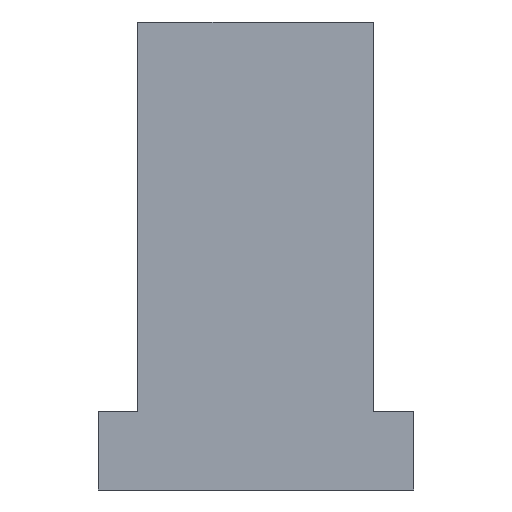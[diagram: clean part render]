
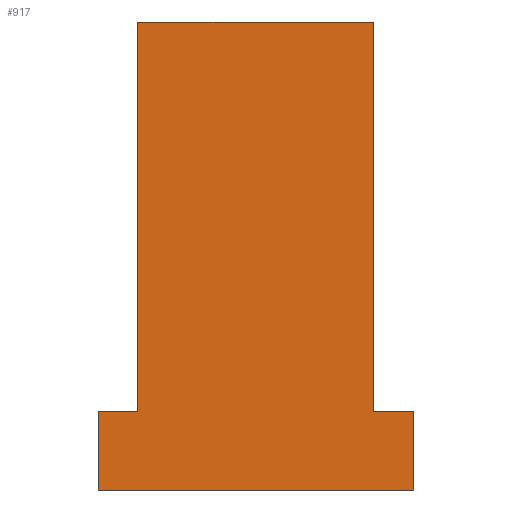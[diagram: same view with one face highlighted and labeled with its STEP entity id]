
A CAD part, front view. The second image highlights one B-rep face of the part: STEP entity #917.
In plain terms, the highlighted planar face has unit normal (0, -1, 0).
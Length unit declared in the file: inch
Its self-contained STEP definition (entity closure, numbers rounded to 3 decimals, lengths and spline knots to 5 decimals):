
#16 = AXIS2_PLACEMENT_3D ( 'NONE', #1453, #1467, #1434 ) ;
#24 = CARTESIAN_POINT ( 'NONE',  ( -6.17391, -0.63043, 0.5 ) ) ;
#25 = DIRECTION ( 'NONE',  ( 1., 0., 0. ) ) ;
#153 = LINE ( 'NONE', #498, #1139 ) ;
#154 = EDGE_CURVE ( 'NONE', #552, #1176, #752, .T. ) ;
#190 = ORIENTED_EDGE ( 'NONE', *, *, #154, .F. ) ;
#197 = ORIENTED_EDGE ( 'NONE', *, *, #1564, .F. ) ;
#215 = EDGE_CURVE ( 'NONE', #855, #941, #1083, .T. ) ;
#246 = ORIENTED_EDGE ( 'NONE', *, *, #215, .F. ) ;
#250 = ORIENTED_EDGE ( 'NONE', *, *, #1706, .T. ) ;
#273 = ORIENTED_EDGE ( 'NONE', *, *, #1589, .F. ) ;
#383 = ORIENTED_EDGE ( 'NONE', *, *, #863, .T. ) ;
#416 = CARTESIAN_POINT ( 'NONE',  ( -6.17391, -0.63043, 0. ) ) ;
#422 = VECTOR ( 'NONE', #897, 39.37008 ) ;
#458 = CARTESIAN_POINT ( 'NONE',  ( -4.42891, -0.63043, 2.97 ) ) ;
#463 = ORIENTED_EDGE ( 'NONE', *, *, #1463, .F. ) ;
#485 = LINE ( 'NONE', #1345, #1282 ) ;
#498 = CARTESIAN_POINT ( 'NONE',  ( -4.17391, -0.63043, 0.5 ) ) ;
#552 = VERTEX_POINT ( 'NONE', #458 ) ;
#560 = DIRECTION ( 'NONE',  ( 1., 0., 0. ) ) ;
#603 = ORIENTED_EDGE ( 'NONE', *, *, #1481, .T. ) ;
#604 = CARTESIAN_POINT ( 'NONE',  ( -4.17391, -0.63043, 0. ) ) ;
#668 = DIRECTION ( 'NONE',  ( 0., 0., -1. ) ) ;
#683 = VERTEX_POINT ( 'NONE', #966 ) ;
#718 = CARTESIAN_POINT ( 'NONE',  ( -4.42891, -0.63043, 0.5 ) ) ;
#752 = LINE ( 'NONE', #1102, #1513 ) ;
#755 = CARTESIAN_POINT ( 'NONE',  ( -6.17391, -0.63043, 0.5 ) ) ;
#825 = FACE_OUTER_BOUND ( 'NONE', #1052, .T. ) ;
#848 = VECTOR ( 'NONE', #560, 39.37008 ) ;
#855 = VERTEX_POINT ( 'NONE', #1234 ) ;
#863 = EDGE_CURVE ( 'NONE', #855, #1398, #1053, .T. ) ;
#881 = VECTOR ( 'NONE', #25, 39.37008 ) ;
#883 = CARTESIAN_POINT ( 'NONE',  ( -5.92391, -0.63043, 2.97 ) ) ;
#894 = CARTESIAN_POINT ( 'NONE',  ( -5.92391, -0.63043, 2.97 ) ) ;
#897 = DIRECTION ( 'NONE',  ( 1., 0., 0. ) ) ;
#917 = ADVANCED_FACE ( 'NONE', ( #825 ), #1436, .F. ) ;
#941 = VERTEX_POINT ( 'NONE', #1406 ) ;
#959 = LINE ( 'NONE', #1563, #1000 ) ;
#966 = CARTESIAN_POINT ( 'NONE',  ( -4.17391, -0.63043, 0.5 ) ) ;
#995 = VECTOR ( 'NONE', #1460, 39.37008 ) ;
#1000 = VECTOR ( 'NONE', #1567, 39.37008 ) ;
#1052 = EDGE_LOOP ( 'NONE', ( #250, #463, #197, #190, #273, #603, #246, #383 ) ) ;
#1053 = LINE ( 'NONE', #1366, #995 ) ;
#1083 = LINE ( 'NONE', #24, #881 ) ;
#1102 = CARTESIAN_POINT ( 'NONE',  ( -4.42891, -0.63043, 2.97 ) ) ;
#1139 = VECTOR ( 'NONE', #668, 39.37008 ) ;
#1176 = VERTEX_POINT ( 'NONE', #718 ) ;
#1187 = LINE ( 'NONE', #755, #848 ) ;
#1210 = VERTEX_POINT ( 'NONE', #604 ) ;
#1234 = CARTESIAN_POINT ( 'NONE',  ( -6.17391, -0.63043, 0.5 ) ) ;
#1282 = VECTOR ( 'NONE', #1350, 39.37008 ) ;
#1345 = CARTESIAN_POINT ( 'NONE',  ( -5.92391, -0.63043, 2.97 ) ) ;
#1350 = DIRECTION ( 'NONE',  ( 0., 0., -1. ) ) ;
#1366 = CARTESIAN_POINT ( 'NONE',  ( -6.17391, -0.63043, 0.5 ) ) ;
#1380 = LINE ( 'NONE', #883, #422 ) ;
#1398 = VERTEX_POINT ( 'NONE', #416 ) ;
#1406 = CARTESIAN_POINT ( 'NONE',  ( -5.92391, -0.63043, 0.5 ) ) ;
#1434 = DIRECTION ( 'NONE',  ( 0., 0., 1. ) ) ;
#1436 = PLANE ( 'NONE',  #16 ) ;
#1453 = CARTESIAN_POINT ( 'NONE',  ( -6.17391, -0.63043, 0.5 ) ) ;
#1460 = DIRECTION ( 'NONE',  ( 0., 0., -1. ) ) ;
#1463 = EDGE_CURVE ( 'NONE', #683, #1210, #153, .T. ) ;
#1467 = DIRECTION ( 'NONE',  ( 0., 1., 0. ) ) ;
#1481 = EDGE_CURVE ( 'NONE', #1553, #941, #485, .T. ) ;
#1513 = VECTOR ( 'NONE', #1697, 39.37008 ) ;
#1553 = VERTEX_POINT ( 'NONE', #894 ) ;
#1563 = CARTESIAN_POINT ( 'NONE',  ( -6.17391, -0.63043, 0. ) ) ;
#1564 = EDGE_CURVE ( 'NONE', #1176, #683, #1187, .T. ) ;
#1567 = DIRECTION ( 'NONE',  ( 1., 0., 0. ) ) ;
#1589 = EDGE_CURVE ( 'NONE', #1553, #552, #1380, .T. ) ;
#1697 = DIRECTION ( 'NONE',  ( 0., 0., -1. ) ) ;
#1706 = EDGE_CURVE ( 'NONE', #1398, #1210, #959, .T. ) ;
